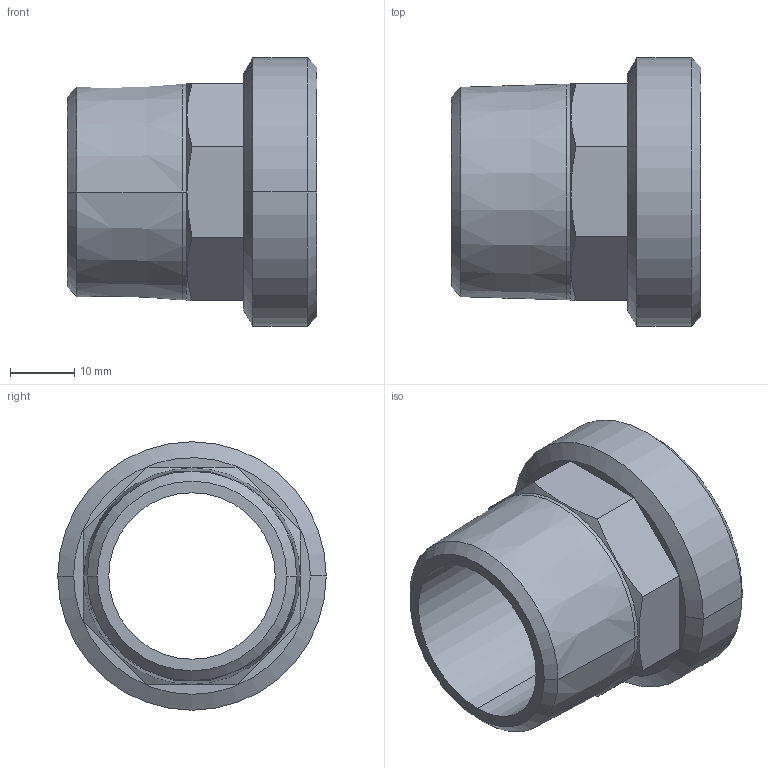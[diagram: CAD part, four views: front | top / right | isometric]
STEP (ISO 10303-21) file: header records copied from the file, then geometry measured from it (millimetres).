
FILE_DESCRIPTION((''),'2;1');
FILE_NAME('G:\BIR\Pajchrowski\projekty\8000 models\4376g\4376g STEP\14376_1-114.stp','2006-04-28T11:32:36',('pajchrowski'),(''),'Autodesk Inventor 8','Autodesk Inventor 8','');
FILE_SCHEMA(('AUTOMOTIVE_DESIGN { 1 0 10303 214 1 1 1 1 }'));
Length unit declared in the file: millimetre
Products named in the file (1): 14376_1-114
Bounding box: 39 x 41.91 x 41.91 mm (x, y, z)
Volume: 19234.2 mm3; surface area: 8900.3 mm2
Topology: 1 solids, 1 shells, 43 faces, 111 edges, 71 vertices
Faces by surface type: cone 18, cylinder 14, plane 11
Entity records: 1311 total; most frequent: CARTESIAN_POINT 278, ORIENTED_EDGE 222, DIRECTION 210, EDGE_CURVE 111, AXIS2_PLACEMENT_3D 81, VERTEX_POINT 71, VECTOR 48, LINE 48
